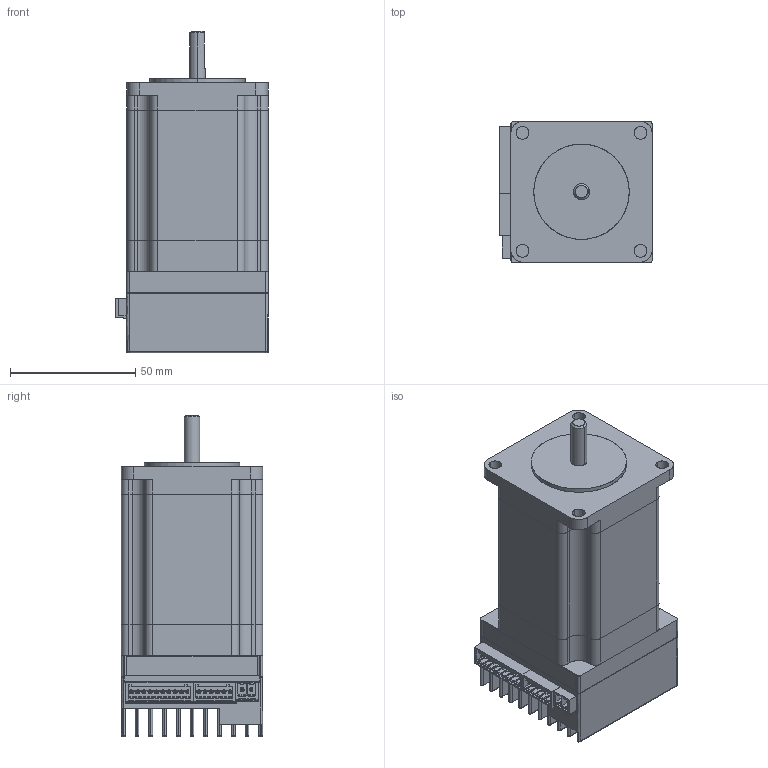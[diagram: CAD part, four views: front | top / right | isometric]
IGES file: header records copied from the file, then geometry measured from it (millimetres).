
Start section: SolidWorks IGES file using analytic representation for surfaces
Global section: file name: C:\Work\Sevotronix\NEMA 23 controller\CAD\2nd version\Drawings and model for marketing\stepIM_IST-23M12CO10.IGS; native system: SolidWorks 2013; preprocessor: SolidWorks 2013; author: owner; date: 150511.003859; units: millimetre
Bounding box: 60.8 x 56.4 x 128.6 mm (x, y, z)
Surface area: 84880.2 mm2 (no closed solid volume)
Topology: 0 solids, 0 shells, 2027 faces, 19358 edges, 19354 vertices
Faces by surface type: bspline 1365, revolution 662
